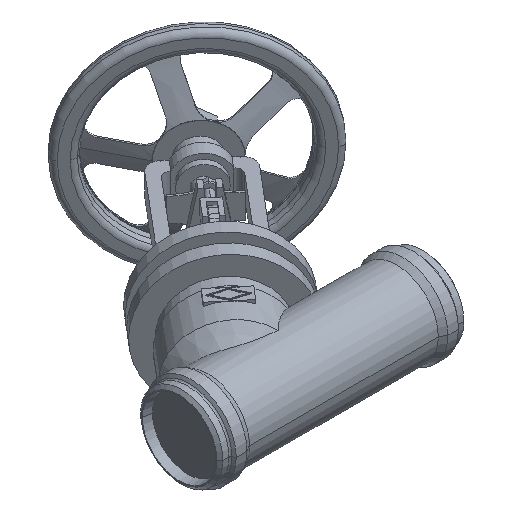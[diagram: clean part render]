
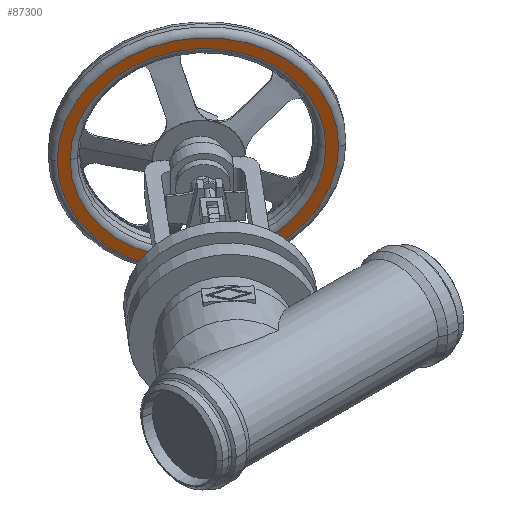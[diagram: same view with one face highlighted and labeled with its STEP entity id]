
A CAD part, isometric view. The second image highlights one B-rep face of the part: STEP entity #87300.
In plain terms, the highlighted planar face has unit normal (-0.643, -0.766, 0).
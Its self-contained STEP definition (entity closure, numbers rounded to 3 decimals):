
#86650=CARTESIAN_POINT('',(255.241,428.565,0.));
#86660=VERTEX_POINT('',#86650);
#86750=CARTESIAN_POINT('',(472.798,246.014,0.));
#86760=VERTEX_POINT('',#86750);
#86790=CARTESIAN_POINT('',(364.019,337.289,0.));
#86800=DIRECTION('',(0.643,0.766,0.));
#86810=DIRECTION('',(-0.766,0.643,
0.));
#86820=AXIS2_PLACEMENT_3D('',#86790,#86800,#86810);
#86830=CIRCLE('',#86820,142.);
#86840=CARTESIAN_POINT('',(364.019,337.289,142.));
#86850=VERTEX_POINT('',#86840);
#86860=EDGE_CURVE('',#86850,#86760,#86830,.T.);
#86880=EDGE_CURVE('',#86660,#86850,#86830,.T.);
#87000=CARTESIAN_POINT('',(260.22,424.387,
0.));
#87010=DIRECTION('',(-0.643,-0.766,0.));
#87020=DIRECTION('',(0.766,-0.643,
0.));
#87030=AXIS2_PLACEMENT_3D('',#87000,#87010,#87020);
#87040=PLANE('',#87030);
#87050=ORIENTED_EDGE('',*,*,#86860,.F.);
#87060=EDGE_CURVE('',#86760,#86660,#86830,.T.);
#87070=ORIENTED_EDGE('',*,*,#87060,.F.);
#87080=ORIENTED_EDGE('',*,*,#86880,.F.);
#87090=EDGE_LOOP('',(#87080,#87070,#87050));
#87100=FACE_OUTER_BOUND('',#87090,.T.);
#87110=CARTESIAN_POINT('',(364.019,337.289,0.));
#87120=DIRECTION('',(0.643,0.766,0.));
#87130=DIRECTION('',(-0.766,0.643,
0.));
#87140=AXIS2_PLACEMENT_3D('',#87110,#87120,#87130);
#87150=CIRCLE('',#87140,129.);
#87160=CARTESIAN_POINT('',(462.839,254.37,0.));
#87170=VERTEX_POINT('',#87160);
#87180=CARTESIAN_POINT('',(265.2,420.209,0.));
#87190=VERTEX_POINT('',#87180);
#87200=EDGE_CURVE('',#87170,#87190,#87150,.T.);
#87210=ORIENTED_EDGE('',*,*,#87200,.T.);
#87220=CARTESIAN_POINT('',(364.019,337.289,129.));
#87230=VERTEX_POINT('',#87220);
#87240=EDGE_CURVE('',#87230,#87170,#87150,.T.);
#87250=ORIENTED_EDGE('',*,*,#87240,.T.);
#87260=EDGE_CURVE('',#87190,#87230,#87150,.T.);
#87270=ORIENTED_EDGE('',*,*,#87260,.T.);
#87280=EDGE_LOOP('',(#87270,#87250,#87210));
#87290=FACE_BOUND('',#87280,.T.);
#87300=ADVANCED_FACE('',(#87100,#87290),#87040,.T.);
